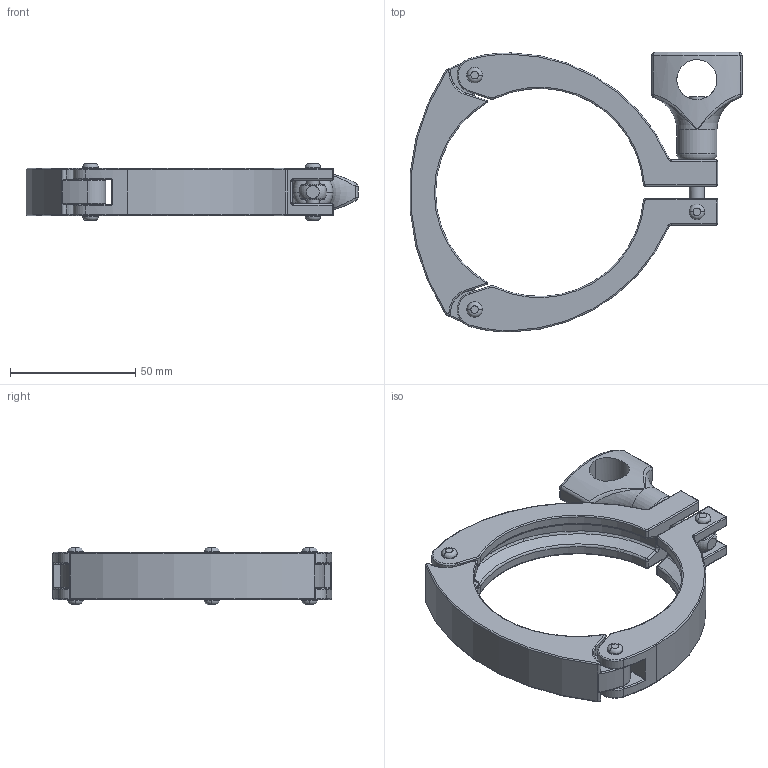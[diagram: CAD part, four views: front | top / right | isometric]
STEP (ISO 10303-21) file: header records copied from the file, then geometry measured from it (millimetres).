
FILE_DESCRIPTION (( 'STEP AP203' ), '1' );
FILE_NAME ('13MHHS3.0.STEP', '2022-06-09T02:32:09', ( '' ), ( '' ), 'SwSTEP 2.0', 'SolidWorks 2014', '' );
FILE_SCHEMA (( 'CONFIG_CONTROL_DESIGN' ));
Length unit declared in the file: millimetre
Products named in the file (7): 13MHHS3.0-1; 13MHHS3.0-3; 13MHHS-PARTS-6; 13MHHS3.0-2; 13MHHS3.0; 13MHHS-PART-4; Wing Nut 14
Assembly tree (8 placements, depth 2):
  13MHHS3.0
    13MHHS3.0-1
    13MHHS3.0-2
    13MHHS3.0-3
    13MHHS-PARTS-6  x3
    13MHHS-PART-4
    Wing Nut 14
Bounding box: 132.45 x 111.64 x 22.8 mm (x, y, z)
Volume: 73248.1 mm3; surface area: 32832.4 mm2
Topology: 8 solids, 8 shells, 579 faces, 1321 edges, 705 vertices
Faces by surface type: torus 180, cylinder 174, bspline 114, plane 62, sphere 42, cone 7
Entity records: 18675 total; most frequent: CARTESIAN_POINT 6365, DIRECTION 2570, ORIENTED_EDGE 2386, EDGE_CURVE 1193, AXIS2_PLACEMENT_3D 1158, CIRCLE 718, VERTEX_POINT 663, EDGE_LOOP 566
